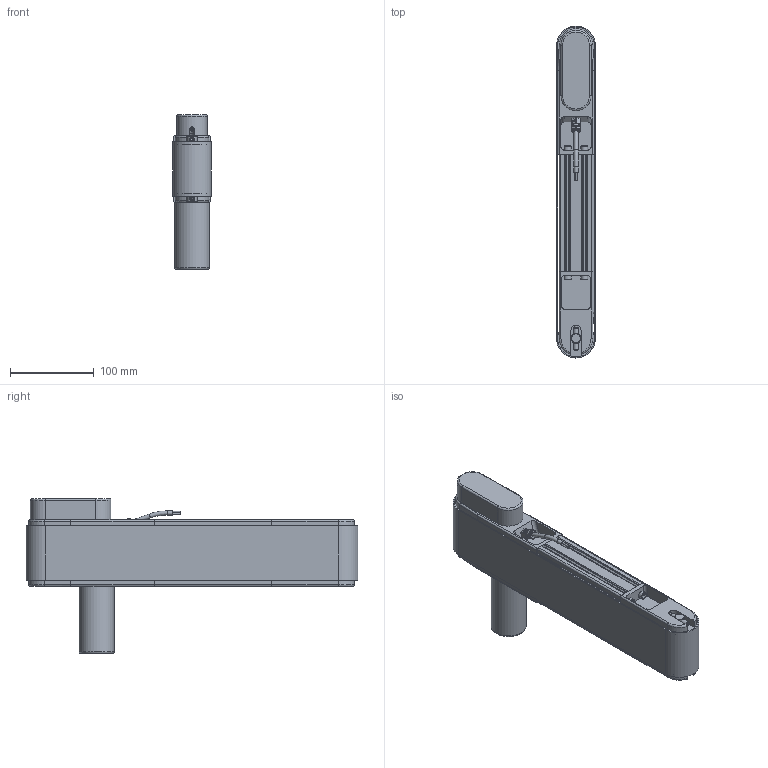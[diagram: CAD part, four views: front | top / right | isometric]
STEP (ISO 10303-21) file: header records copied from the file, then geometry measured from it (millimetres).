
FILE_DESCRIPTION(/* description */ (''),/* implementation_level */ '2;1');
FILE_NAME(/* name */ 'G:\DATEN\CAD\Förderband\Marketing\3D-Modelle (Standard)\FR-40-80-Q\FR-40-80-Q-350-K (Motorendrohr 80 mm).stp',/* time_stamp */ '2019-05-08T14:05:22+02:00',/* author */ ('melanie.ochs'),/* organization */ (''),/* preprocessor_version */ 'ST-DEVELOPER v17',/* originating_system */ 'Autodesk Inventor 2019',/* authorisation */ '');
FILE_SCHEMA (('CONFIG_CONTROL_DESIGN'));
Length unit declared in the file: millimetre
Products named in the file (1): FR-40-80-Q-350-K (Motorendrohr 80 mm)
Bounding box: 46.6 x 396.6 x 185 mm (x, y, z)
Volume: 1085793.8 mm3; surface area: 374531.6 mm2
Topology: 31 solids, 32 shells, 869 faces, 2364 edges, 1606 vertices
Faces by surface type: plane 438, cylinder 271, cone 68, bspline 61, torus 31
Full cylindrical faces by diameter (mm): 2 x2, 4 x6, 4.3 x4, 4.65 x1, 4.917 x2, 5 x11, 5.5 x8, 6 x2, 6.5 x1, 6.773 x1, 6.917 x2, 8 x7, 8.3 x8, 8.5 x8, 8.773 x1, 10 x1, 11 x1, 12 x3, 25 x2, 28 x4, 42 x2, 44 x2
Entity records: 29211 total; most frequent: CARTESIAN_POINT 6159, ORIENTED_EDGE 4692, DIRECTION 4543, EDGE_CURVE 2346, AXIS2_PLACEMENT_3D 1642, VERTEX_POINT 1606, LINE 1259, VECTOR 1259
